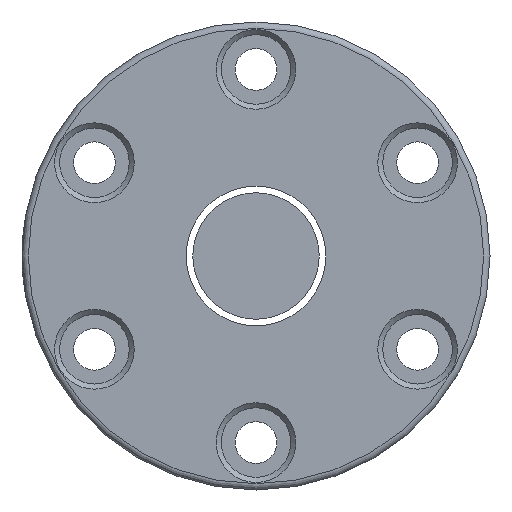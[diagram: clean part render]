
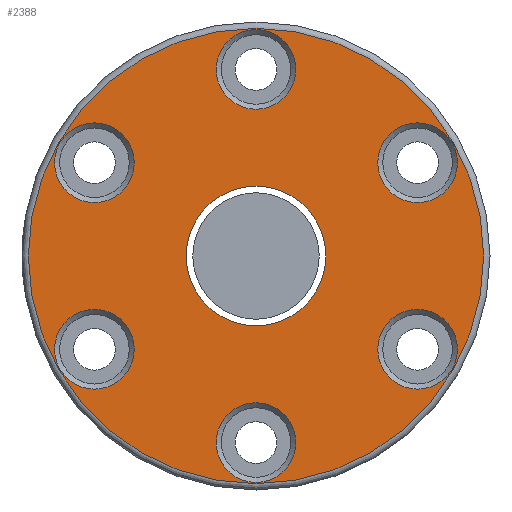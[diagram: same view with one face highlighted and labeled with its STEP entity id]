
A CAD part, left-side view. The second image highlights one B-rep face of the part: STEP entity #2388.
In plain terms, the highlighted planar face has unit normal (-1, 0, 0).
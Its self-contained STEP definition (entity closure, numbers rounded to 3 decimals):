
#9 = AXIS2_PLACEMENT_3D ( 'NONE', #480, #2532, #1589 ) ;
#54 = DIRECTION ( 'NONE',  ( 0., 0., 1. ) ) ;
#56 = CIRCLE ( 'NONE', #439, 6.3 ) ;
#77 = FACE_BOUND ( 'NONE', #2534, .T. ) ;
#105 = DIRECTION ( 'NONE',  ( 0., 0., 1. ) ) ;
#117 = VERTEX_POINT ( 'NONE', #130 ) ;
#130 = CARTESIAN_POINT ( 'NONE',  ( -70., 0., -23.2 ) ) ;
#202 = CARTESIAN_POINT ( 'NONE',  ( -70., 0., 0. ) ) ;
#234 = DIRECTION ( 'NONE',  ( 0., 0., 1. ) ) ;
#307 = CIRCLE ( 'NONE', #1462, 11.05 ) ;
#344 = VERTEX_POINT ( 'NONE', #1103 ) ;
#379 = EDGE_LOOP ( 'NONE', ( #2702 ) ) ;
#382 = DIRECTION ( 'NONE',  ( 1., 0., 0. ) ) ;
#439 = AXIS2_PLACEMENT_3D ( 'NONE', #2818, #1890, #54 ) ;
#450 = ORIENTED_EDGE ( 'NONE', *, *, #1747, .T. ) ;
#480 = CARTESIAN_POINT ( 'NONE',  ( -70., 25.548, -14.75 ) ) ;
#495 = CARTESIAN_POINT ( 'NONE',  ( -70., 0., 36. ) ) ;
#626 = EDGE_CURVE ( 'NONE', #2327, #2327, #1973, .T. ) ;
#722 = EDGE_CURVE ( 'NONE', #2774, #2774, #1122, .T. ) ;
#788 = FACE_BOUND ( 'NONE', #1582, .T. ) ;
#820 = ORIENTED_EDGE ( 'NONE', *, *, #722, .T. ) ;
#839 = CIRCLE ( 'NONE', #1800, 6.3 ) ;
#950 = EDGE_CURVE ( 'NONE', #117, #117, #977, .T. ) ;
#963 = EDGE_LOOP ( 'NONE', ( #820 ) ) ;
#965 = CARTESIAN_POINT ( 'NONE',  ( -70., 0., -29.5 ) ) ;
#977 = CIRCLE ( 'NONE', #1645, 6.3 ) ;
#1012 = DIRECTION ( 'NONE',  ( 0., 0., 1. ) ) ;
#1087 = CARTESIAN_POINT ( 'NONE',  ( -70., -25.548, -8.45 ) ) ;
#1103 = CARTESIAN_POINT ( 'NONE',  ( -70., -25.548, 21.05 ) ) ;
#1122 = CIRCLE ( 'NONE', #2592, 36. ) ;
#1261 = ORIENTED_EDGE ( 'NONE', *, *, #626, .T. ) ;
#1280 = EDGE_CURVE ( 'NONE', #344, #344, #56, .T. ) ;
#1299 = CARTESIAN_POINT ( 'NONE',  ( -70., 25.548, 21.05 ) ) ;
#1304 = ORIENTED_EDGE ( 'NONE', *, *, #2442, .T. ) ;
#1319 = ORIENTED_EDGE ( 'NONE', *, *, #950, .T. ) ;
#1372 = AXIS2_PLACEMENT_3D ( 'NONE', #2762, #2262, #2471 ) ;
#1448 = FACE_BOUND ( 'NONE', #2868, .T. ) ;
#1462 = AXIS2_PLACEMENT_3D ( 'NONE', #1977, #382, #1541 ) ;
#1541 = DIRECTION ( 'NONE',  ( 0., 0., -1. ) ) ;
#1561 = EDGE_LOOP ( 'NONE', ( #1319 ) ) ;
#1582 = EDGE_LOOP ( 'NONE', ( #450 ) ) ;
#1589 = DIRECTION ( 'NONE',  ( 0., 0., 1. ) ) ;
#1635 = CARTESIAN_POINT ( 'NONE',  ( -70., 25.548, -8.45 ) ) ;
#1645 = AXIS2_PLACEMENT_3D ( 'NONE', #965, #1876, #2558 ) ;
#1672 = FACE_OUTER_BOUND ( 'NONE', #963, .T. ) ;
#1685 = FACE_BOUND ( 'NONE', #2131, .T. ) ;
#1711 = EDGE_CURVE ( 'NONE', #2224, #2224, #839, .T. ) ;
#1715 = FACE_BOUND ( 'NONE', #2505, .T. ) ;
#1729 = FACE_BOUND ( 'NONE', #379, .T. ) ;
#1747 = EDGE_CURVE ( 'NONE', #2648, #2648, #307, .T. ) ;
#1800 = AXIS2_PLACEMENT_3D ( 'NONE', #1960, #2871, #2858 ) ;
#1876 = DIRECTION ( 'NONE',  ( 1., 0., 0. ) ) ;
#1890 = DIRECTION ( 'NONE',  ( 1., 0., 0. ) ) ;
#1894 = CIRCLE ( 'NONE', #2516, 6.3 ) ;
#1908 = VERTEX_POINT ( 'NONE', #2821 ) ;
#1911 = PLANE ( 'NONE',  #2096 ) ;
#1960 = CARTESIAN_POINT ( 'NONE',  ( -70., -25.548, -14.75 ) ) ;
#1973 = CIRCLE ( 'NONE', #9, 6.3 ) ;
#1977 = CARTESIAN_POINT ( 'NONE',  ( -70., 0., 0. ) ) ;
#2000 = CARTESIAN_POINT ( 'NONE',  ( -70., 0., -11.05 ) ) ;
#2043 = DIRECTION ( 'NONE',  ( -1., 0., 0. ) ) ;
#2096 = AXIS2_PLACEMENT_3D ( 'NONE', #2622, #2141, #105 ) ;
#2131 = EDGE_LOOP ( 'NONE', ( #1261 ) ) ;
#2141 = DIRECTION ( 'NONE',  ( -1., 0., 0. ) ) ;
#2181 = CARTESIAN_POINT ( 'NONE',  ( -70., 25.548, 14.75 ) ) ;
#2224 = VERTEX_POINT ( 'NONE', #1087 ) ;
#2262 = DIRECTION ( 'NONE',  ( 1., 0., 0. ) ) ;
#2327 = VERTEX_POINT ( 'NONE', #1635 ) ;
#2379 = ORIENTED_EDGE ( 'NONE', *, *, #1711, .T. ) ;
#2388 = ADVANCED_FACE ( 'NONE', ( #1672, #77, #1448, #1729, #1715, #1685, #2798, #788 ), #1911, .T. ) ;
#2442 = EDGE_CURVE ( 'NONE', #2906, #2906, #1894, .T. ) ;
#2471 = DIRECTION ( 'NONE',  ( 0., 0., 1. ) ) ;
#2505 = EDGE_LOOP ( 'NONE', ( #1304 ) ) ;
#2516 = AXIS2_PLACEMENT_3D ( 'NONE', #2181, #2579, #1012 ) ;
#2532 = DIRECTION ( 'NONE',  ( 1., 0., 0. ) ) ;
#2534 = EDGE_LOOP ( 'NONE', ( #2379 ) ) ;
#2558 = DIRECTION ( 'NONE',  ( 0., 0., 1. ) ) ;
#2579 = DIRECTION ( 'NONE',  ( 1., 0., 0. ) ) ;
#2592 = AXIS2_PLACEMENT_3D ( 'NONE', #202, #2043, #234 ) ;
#2622 = CARTESIAN_POINT ( 'NONE',  ( -70., 37., 0. ) ) ;
#2640 = ORIENTED_EDGE ( 'NONE', *, *, #1280, .T. ) ;
#2648 = VERTEX_POINT ( 'NONE', #2000 ) ;
#2702 = ORIENTED_EDGE ( 'NONE', *, *, #2849, .T. ) ;
#2762 = CARTESIAN_POINT ( 'NONE',  ( -70., 0., 29.5 ) ) ;
#2774 = VERTEX_POINT ( 'NONE', #495 ) ;
#2798 = FACE_BOUND ( 'NONE', #1561, .T. ) ;
#2818 = CARTESIAN_POINT ( 'NONE',  ( -70., -25.548, 14.75 ) ) ;
#2821 = CARTESIAN_POINT ( 'NONE',  ( -70., 0., 35.8 ) ) ;
#2849 = EDGE_CURVE ( 'NONE', #1908, #1908, #2878, .T. ) ;
#2858 = DIRECTION ( 'NONE',  ( 0., 0., 1. ) ) ;
#2868 = EDGE_LOOP ( 'NONE', ( #2640 ) ) ;
#2871 = DIRECTION ( 'NONE',  ( 1., 0., 0. ) ) ;
#2878 = CIRCLE ( 'NONE', #1372, 6.3 ) ;
#2906 = VERTEX_POINT ( 'NONE', #1299 ) ;
